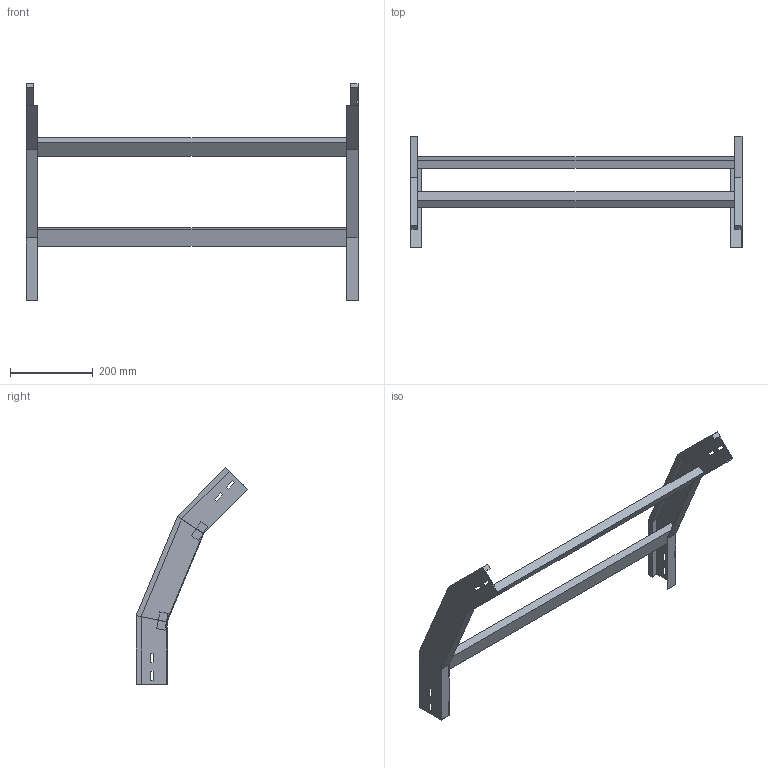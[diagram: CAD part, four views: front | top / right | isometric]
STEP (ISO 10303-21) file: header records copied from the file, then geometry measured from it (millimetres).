
FILE_DESCRIPTION (( 'STEP AP214' ), '1' );
FILE_NAME ('A2_34B3C800.step', '2025-02-21T14:55:12', ( '' ), ( '' ), 'SwSTEP 2.0', 'SolidWorks 2023', '' );
FILE_SCHEMA (( 'AUTOMOTIVE_DESIGN' ));
Length unit declared in the file: millimetre
Products named in the file (3): A2_34B3C800; LONGH.DISCESA_45°_H75_R300; TRAVERSINO_800
Assembly tree (5 placements, depth 2):
  A2_34B3C800
    LONGH.DISCESA_45°_H75_R300  x2
    TRAVERSINO_800  x3
Bounding box: 800 x 269.08 x 521.59 mm (x, y, z)
Volume: 2377448.1 mm3; surface area: 556782.9 mm2
Topology: 5 solids, 5 shells, 102 faces, 244 edges, 152 vertices
Faces by surface type: plane 102
Entity records: 1480 total; most frequent: CARTESIAN_POINT 244, ORIENTED_EDGE 232, DIRECTION 228, EDGE_CURVE 116, VECTOR 116, LINE 116, VERTEX_POINT 72, AXIS2_PLACEMENT_3D 56
